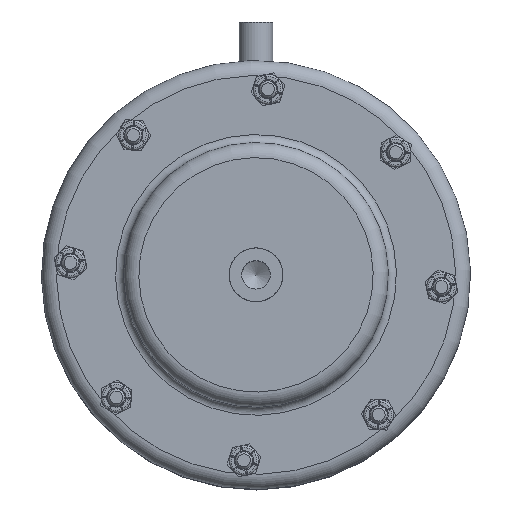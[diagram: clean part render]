
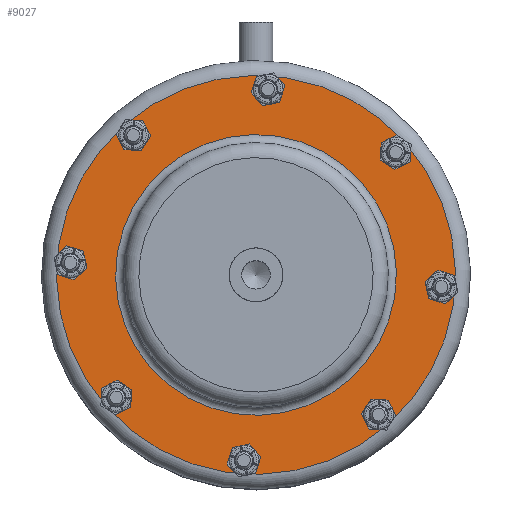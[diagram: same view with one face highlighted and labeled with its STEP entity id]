
A CAD part, top view. The second image highlights one B-rep face of the part: STEP entity #9027.
In plain terms, the highlighted planar face has unit normal (0, 0, 1).
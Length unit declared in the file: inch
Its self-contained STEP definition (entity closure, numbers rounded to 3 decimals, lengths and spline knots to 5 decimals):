
#8680=CARTESIAN_POINT('',(2.05868,1.92088,0.47244));
#8681=VERTEX_POINT('',#8680);
#8682=CARTESIAN_POINT('',(1.92088,1.92088,0.47244));
#8683=DIRECTION('',(0.0,0.0,-1.0));
#8684=DIRECTION('',(1.0,0.0,0.0));
#8685=AXIS2_PLACEMENT_3D('',#8682,#8683,#8684);
#8686=CIRCLE('',#8685,0.1378);
#8687=EDGE_CURVE('',#8681,#8681,#8686,.T.);
#8708=CARTESIAN_POINT('',(2.85433,0.,0.47244));
#8709=VERTEX_POINT('',#8708);
#8710=CARTESIAN_POINT('',(2.71654,0.,0.47244));
#8711=DIRECTION('',(0.0,0.0,-1.0));
#8712=DIRECTION('',(1.0,0.0,0.0));
#8713=AXIS2_PLACEMENT_3D('',#8710,#8711,#8712);
#8714=CIRCLE('',#8713,0.1378);
#8715=EDGE_CURVE('',#8709,#8709,#8714,.T.);
#8736=CARTESIAN_POINT('',(2.05868,-1.92088,0.47244));
#8737=VERTEX_POINT('',#8736);
#8738=CARTESIAN_POINT('',(1.92088,-1.92088,0.47244));
#8739=DIRECTION('',(0.0,0.0,-1.0));
#8740=DIRECTION('',(1.0,0.0,0.0));
#8741=AXIS2_PLACEMENT_3D('',#8738,#8739,#8740);
#8742=CIRCLE('',#8741,0.1378);
#8743=EDGE_CURVE('',#8737,#8737,#8742,.T.);
#8764=CARTESIAN_POINT('',(0.1378,-2.71654,0.47244));
#8765=VERTEX_POINT('',#8764);
#8766=CARTESIAN_POINT('',(0.,-2.71654,0.47244));
#8767=DIRECTION('',(0.0,0.0,-1.0));
#8768=DIRECTION('',(1.0,0.0,0.0));
#8769=AXIS2_PLACEMENT_3D('',#8766,#8767,#8768);
#8770=CIRCLE('',#8769,0.1378);
#8771=EDGE_CURVE('',#8765,#8765,#8770,.T.);
#8792=CARTESIAN_POINT('',(-1.78309,-1.92088,0.47244));
#8793=VERTEX_POINT('',#8792);
#8794=CARTESIAN_POINT('',(-1.92088,-1.92088,0.47244));
#8795=DIRECTION('',(0.0,0.0,-1.0));
#8796=DIRECTION('',(1.0,0.0,0.0));
#8797=AXIS2_PLACEMENT_3D('',#8794,#8795,#8796);
#8798=CIRCLE('',#8797,0.1378);
#8799=EDGE_CURVE('',#8793,#8793,#8798,.T.);
#8820=CARTESIAN_POINT('',(-2.57874,0.,0.47244));
#8821=VERTEX_POINT('',#8820);
#8822=CARTESIAN_POINT('',(-2.71654,0.,0.47244));
#8823=DIRECTION('',(0.0,0.0,-1.0));
#8824=DIRECTION('',(1.0,0.0,0.0));
#8825=AXIS2_PLACEMENT_3D('',#8822,#8823,#8824);
#8826=CIRCLE('',#8825,0.1378);
#8827=EDGE_CURVE('',#8821,#8821,#8826,.T.);
#8848=CARTESIAN_POINT('',(-1.78309,1.92088,0.47244));
#8849=VERTEX_POINT('',#8848);
#8850=CARTESIAN_POINT('',(-1.92088,1.92088,0.47244));
#8851=DIRECTION('',(0.0,0.0,-1.0));
#8852=DIRECTION('',(1.0,0.0,0.0));
#8853=AXIS2_PLACEMENT_3D('',#8850,#8851,#8852);
#8854=CIRCLE('',#8853,0.1378);
#8855=EDGE_CURVE('',#8849,#8849,#8854,.T.);
#8876=CARTESIAN_POINT('',(0.1378,2.71654,0.47244));
#8877=VERTEX_POINT('',#8876);
#8878=CARTESIAN_POINT('',(0.0,2.71654,0.47244));
#8879=DIRECTION('',(0.0,0.0,-1.0));
#8880=DIRECTION('',(1.0,0.0,0.0));
#8881=AXIS2_PLACEMENT_3D('',#8878,#8879,#8880);
#8882=CIRCLE('',#8881,0.1378);
#8883=EDGE_CURVE('',#8877,#8877,#8882,.T.);
#8969=CARTESIAN_POINT('',(0.0,-2.91339,0.47244));
#8970=VERTEX_POINT('',#8969);
#8971=CARTESIAN_POINT('',(0.0,0.0,0.47244));
#8972=DIRECTION('',(0.0,0.0,1.0));
#8973=DIRECTION('',(0.0,-1.0,0.0));
#8974=AXIS2_PLACEMENT_3D('',#8971,#8972,#8973);
#8975=CIRCLE('',#8974,2.91339);
#8976=EDGE_CURVE('',#8970,#8970,#8975,.T.);
#8984=CARTESIAN_POINT('',(0.0,-2.48228,0.47244));
#8985=DIRECTION('',(0.0,0.0,1.0));
#8986=DIRECTION('',(1.0,0.0,0.0));
#8987=AXIS2_PLACEMENT_3D('',#8984,#8985,#8986);
#8988=PLANE('',#8987);
#8989=ORIENTED_EDGE('',*,*,#8976,.T.);
#8990=EDGE_LOOP('',(#8989));
#8991=FACE_OUTER_BOUND('',#8990,.T.);
#8992=ORIENTED_EDGE('',*,*,#8687,.T.);
#8993=EDGE_LOOP('',(#8992));
#8994=FACE_BOUND('',#8993,.T.);
#8995=ORIENTED_EDGE('',*,*,#8715,.T.);
#8996=EDGE_LOOP('',(#8995));
#8997=FACE_BOUND('',#8996,.T.);
#8998=ORIENTED_EDGE('',*,*,#8743,.T.);
#8999=EDGE_LOOP('',(#8998));
#9000=FACE_BOUND('',#8999,.T.);
#9001=ORIENTED_EDGE('',*,*,#8771,.T.);
#9002=EDGE_LOOP('',(#9001));
#9003=FACE_BOUND('',#9002,.T.);
#9004=ORIENTED_EDGE('',*,*,#8799,.T.);
#9005=EDGE_LOOP('',(#9004));
#9006=FACE_BOUND('',#9005,.T.);
#9007=ORIENTED_EDGE('',*,*,#8827,.T.);
#9008=EDGE_LOOP('',(#9007));
#9009=FACE_BOUND('',#9008,.T.);
#9010=ORIENTED_EDGE('',*,*,#8855,.T.);
#9011=EDGE_LOOP('',(#9010));
#9012=FACE_BOUND('',#9011,.T.);
#9013=ORIENTED_EDGE('',*,*,#8883,.T.);
#9014=EDGE_LOOP('',(#9013));
#9015=FACE_BOUND('',#9014,.T.);
#9016=CARTESIAN_POINT('',(0.0,-2.05118,0.47244));
#9017=VERTEX_POINT('',#9016);
#9018=CARTESIAN_POINT('',(0.0,0.0,0.47244));
#9019=DIRECTION('',(0.0,0.0,1.0));
#9020=DIRECTION('',(0.0,-1.0,0.0));
#9021=AXIS2_PLACEMENT_3D('',#9018,#9019,#9020);
#9022=CIRCLE('',#9021,2.05118);
#9023=EDGE_CURVE('',#9017,#9017,#9022,.T.);
#9024=ORIENTED_EDGE('',*,*,#9023,.F.);
#9025=EDGE_LOOP('',(#9024));
#9026=FACE_BOUND('',#9025,.T.);
#9027=ADVANCED_FACE('',(#8991,#8994,#8997,#9000,#9003,#9006,#9009,#9012,#9015,#9026),#8988,.T.);
